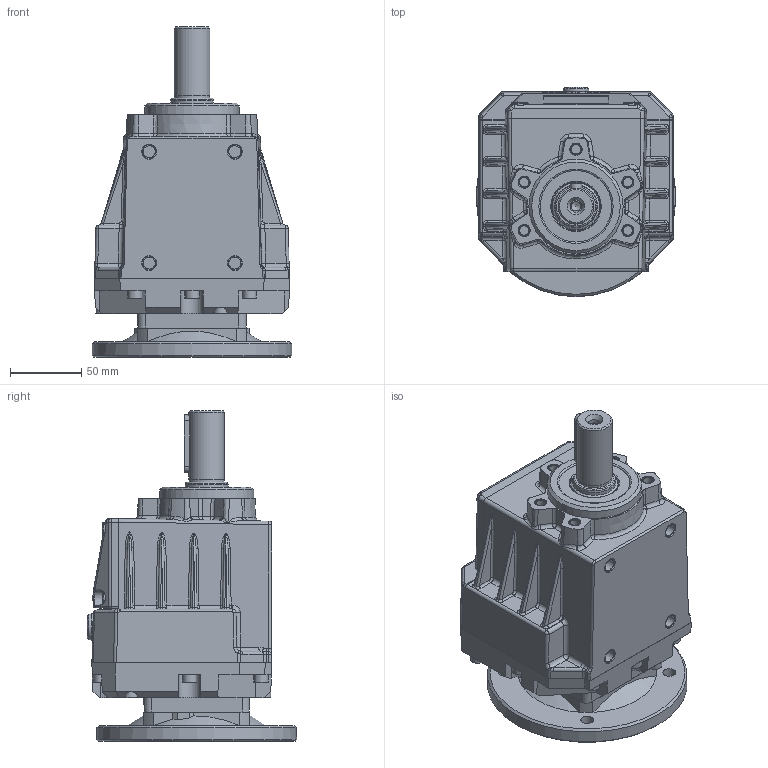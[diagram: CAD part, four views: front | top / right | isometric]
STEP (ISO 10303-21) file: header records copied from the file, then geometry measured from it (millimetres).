
FILE_DESCRIPTION( ( 'Unknown' ), '1' );
FILE_NAME( 'E:/services/configuratordownloads/customers/HYDROMEC/COASSIALI/download/54D4AC28A690DCA687A4937A3D3B8792/STEP/54D4AC28A690DCA687A4937A3D3B8792.3d.stp', 'Unknown', ( 'Unknown' ), ( 'Unknown' ), 'PSStep 10.1', 'Unknown', ' ' );
FILE_SCHEMA( ( 'AUTOMOTIVE_DESIGN { 1 0 10303 214 1 1 1 1 }' ) );
Length unit declared in the file: millimetre
Products named in the file (1): C418800
Bounding box: 139.97 x 146.51 x 231.5 mm (x, y, z)
Volume: 1931711.3 mm3; surface area: 169795.7 mm2
Topology: 1 solids, 14 shells, 966 faces, 2351 edges, 1469 vertices
Faces by surface type: plane 482, cylinder 224, bspline 164, cone 69, torus 22, extrusion 3, sphere 2
Full cylindrical faces by diameter (mm): 6.5 x1, 6.647 x10, 7 x8, 8.376 x4, 8.4 x1, 9 x4, 9.9 x8, 10 x4, 11 x4, 13.5 x1, 18 x1, 19 x1, 22 x1, 24.6 x1, 25 x1, 30 x1, 35 x1, 35.5 x1, 47 x2, 66 x1, 95 x1
Entity records: 45191 total; most frequent: CARTESIAN_POINT 16911, ORIENTED_EDGE 4336, DIRECTION 3781, EDGE_CURVE 2168, VERTEX_POINT 1419, AXIS2_PLACEMENT_3D 1320, EDGE_LOOP 1160, VECTOR 1141
